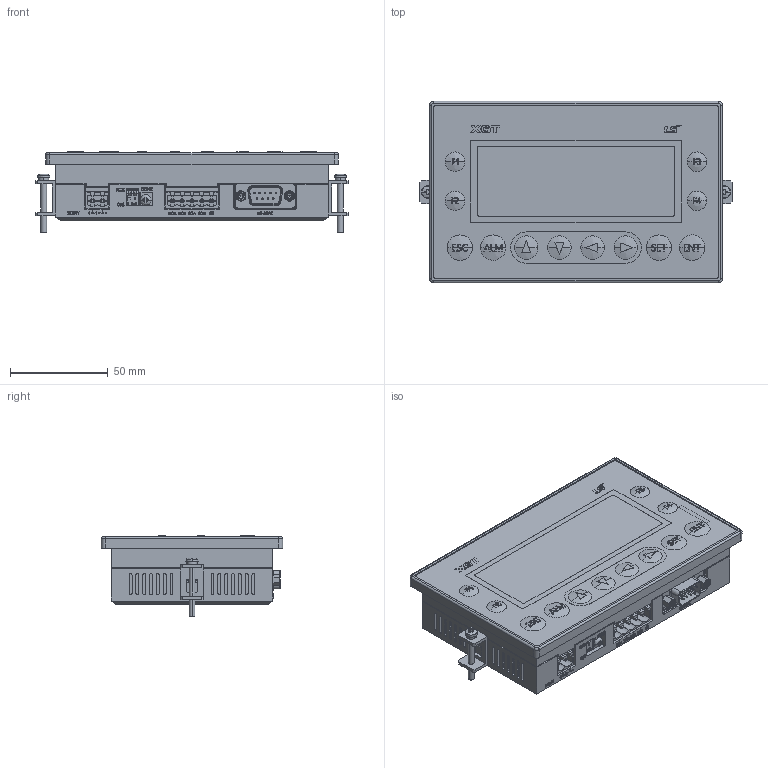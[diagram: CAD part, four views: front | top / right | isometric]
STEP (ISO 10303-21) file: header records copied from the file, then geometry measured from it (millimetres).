
FILE_DESCRIPTION((''),'2;1');
FILE_NAME('46990004_XP10BKA_DC_A_SW0001','2022-11-24T17:15:18',('sshin'),(''),'CREO PARAMETRIC BY PTC INC, 2020354','CREO PARAMETRIC BY PTC INC, 2020354','');
FILE_SCHEMA(('CONFIG_CONTROL_DESIGN','SHAPE_APPEARANCE_LAYERS_GROUPS'));
Products named in the file (1): 46990004_XP10BKA_DC_A_SW0001
Bounding box: 160 x 93 x 41.32 mm (x, y, z)
Volume: 400967.4 mm3; surface area: 61449.3 mm2
Topology: 1 solids, 11 shells, 2850 faces, 7794 edges, 5080 vertices
Faces by surface type: plane 1672, extrusion 563, cylinder 400, bspline 71, sphere 66, torus 54, cone 24
Entity records: 133845 total; most frequent: CARTESIAN_POINT 42207, ORIENTED_EDGE 15458, DIRECTION 12147, EDGE_CURVE 7729, VECTOR 5469, VERTEX_POINT 5080, LINE 4906, AXIS2_PLACEMENT_3D 3339
